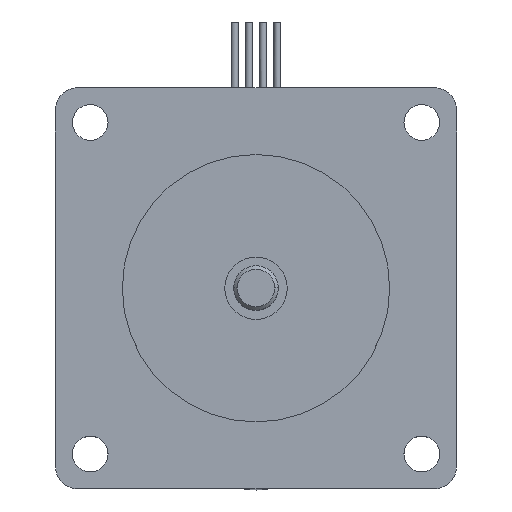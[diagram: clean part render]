
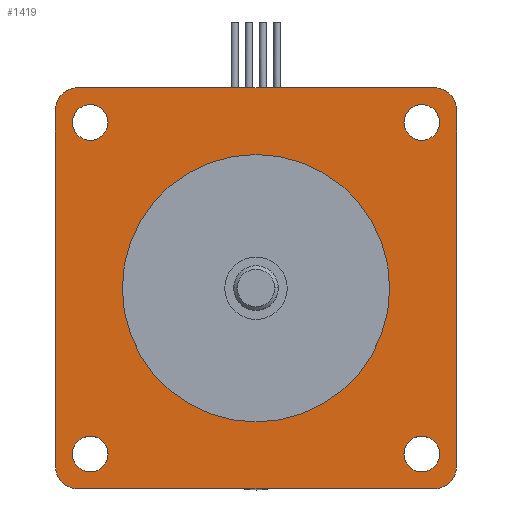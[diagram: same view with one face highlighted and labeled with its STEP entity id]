
A CAD part, top view. The second image highlights one B-rep face of the part: STEP entity #1419.
In plain terms, the highlighted planar face has unit normal (0, 0, 1).
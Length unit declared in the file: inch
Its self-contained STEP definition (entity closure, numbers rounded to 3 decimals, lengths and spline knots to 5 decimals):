
#99=CARTESIAN_POINT('',(-1.03,0.93,4.03));
#100=VERTEX_POINT('',#99);
#116=CARTESIAN_POINT('',(-0.83,0.93,4.03));
#117=VERTEX_POINT('',#116);
#124=CARTESIAN_POINT('',(-0.93,0.93,4.03));
#125=DIRECTION('',(0.0,0.0,-1.0));
#126=DIRECTION('',(-1.0,0.0,0.0));
#127=AXIS2_PLACEMENT_3D('',#124,#125,#126);
#128=CIRCLE('',#127,0.1);
#129=EDGE_CURVE('',#100,#117,#128,.T.);
#141=CARTESIAN_POINT('',(0.93,1.03,4.03));
#142=VERTEX_POINT('',#141);
#158=CARTESIAN_POINT('',(0.93,0.83,4.03));
#159=VERTEX_POINT('',#158);
#166=CARTESIAN_POINT('',(0.93,0.93,4.03));
#167=DIRECTION('',(0.0,0.0,-1.0));
#168=DIRECTION('',(0.0,1.0,0.0));
#169=AXIS2_PLACEMENT_3D('',#166,#167,#168);
#170=CIRCLE('',#169,0.1);
#171=EDGE_CURVE('',#142,#159,#170,.T.);
#183=CARTESIAN_POINT('',(-0.93,-1.03,4.03));
#184=VERTEX_POINT('',#183);
#200=CARTESIAN_POINT('',(-0.93,-0.83,4.03));
#201=VERTEX_POINT('',#200);
#208=CARTESIAN_POINT('',(-0.93,-0.93,4.03));
#209=DIRECTION('',(0.0,0.0,-1.0));
#210=DIRECTION('',(0.0,-1.0,0.0));
#211=AXIS2_PLACEMENT_3D('',#208,#209,#210);
#212=CIRCLE('',#211,0.1);
#213=EDGE_CURVE('',#184,#201,#212,.T.);
#225=CARTESIAN_POINT('',(1.03,-0.93,4.03));
#226=VERTEX_POINT('',#225);
#242=CARTESIAN_POINT('',(0.83,-0.93,4.03));
#243=VERTEX_POINT('',#242);
#250=CARTESIAN_POINT('',(0.93,-0.93,4.03));
#251=DIRECTION('',(0.0,0.0,-1.0));
#252=DIRECTION('',(1.0,0.0,0.0));
#253=AXIS2_PLACEMENT_3D('',#250,#251,#252);
#254=CIRCLE('',#253,0.1);
#255=EDGE_CURVE('',#226,#243,#254,.T.);
#265=CARTESIAN_POINT('',(-0.75,0.,4.03));
#266=VERTEX_POINT('',#265);
#275=CARTESIAN_POINT('',(0.75,0.,4.03));
#276=VERTEX_POINT('',#275);
#277=CARTESIAN_POINT('',(0.0,0.0,4.03));
#278=DIRECTION('',(0.0,0.0,-1.0));
#279=DIRECTION('',(-1.0,0.0,0.0));
#280=AXIS2_PLACEMENT_3D('',#277,#278,#279);
#281=CIRCLE('',#280,0.75);
#282=EDGE_CURVE('',#276,#266,#281,.T.);
#1169=CARTESIAN_POINT('',(-1.125,1.0,4.03));
#1170=VERTEX_POINT('',#1169);
#1177=CARTESIAN_POINT('',(-1.,1.125,4.03));
#1178=VERTEX_POINT('',#1177);
#1179=CARTESIAN_POINT('',(-1.,1.0,4.03));
#1180=DIRECTION('',(0.0,0.0,1.0));
#1181=DIRECTION('',(0.0,1.0,0.0));
#1182=AXIS2_PLACEMENT_3D('',#1179,#1180,#1181);
#1183=CIRCLE('',#1182,0.125);
#1184=EDGE_CURVE('',#1178,#1170,#1183,.T.);
#1203=CARTESIAN_POINT('',(1.0,1.125,4.03));
#1204=VERTEX_POINT('',#1203);
#1205=CARTESIAN_POINT('',(1.0,1.125,4.03));
#1206=DIRECTION('',(-1.0,0.0,0.0));
#1207=VECTOR('',#1206,2.0);
#1208=LINE('',#1205,#1207);
#1209=EDGE_CURVE('',#1204,#1178,#1208,.T.);
#1227=CARTESIAN_POINT('',(-1.125,-1.,4.03));
#1228=VERTEX_POINT('',#1227);
#1235=CARTESIAN_POINT('',(-1.125,1.0,4.03));
#1236=DIRECTION('',(0.0,-1.0,0.0));
#1237=VECTOR('',#1236,2.);
#1238=LINE('',#1235,#1237);
#1239=EDGE_CURVE('',#1170,#1228,#1238,.T.);
#1251=CARTESIAN_POINT('',(-1.,-1.125,4.03));
#1252=VERTEX_POINT('',#1251);
#1259=CARTESIAN_POINT('',(-1.,-1.,4.03));
#1260=DIRECTION('',(0.0,0.0,1.0));
#1261=DIRECTION('',(-1.0,0.0,0.0));
#1262=AXIS2_PLACEMENT_3D('',#1259,#1260,#1261);
#1263=CIRCLE('',#1262,0.125);
#1264=EDGE_CURVE('',#1228,#1252,#1263,.T.);
#1308=CARTESIAN_POINT('',(0.0,0.0,4.03));
#1309=DIRECTION('',(0.0,0.0,-1.0));
#1310=DIRECTION('',(-1.0,0.0,0.0));
#1311=AXIS2_PLACEMENT_3D('',#1308,#1309,#1310);
#1312=CIRCLE('',#1311,0.75);
#1313=EDGE_CURVE('',#266,#276,#1312,.T.);
#1332=CARTESIAN_POINT('',(0.0,0.0,4.03));
#1333=DIRECTION('',(0.0,0.0,1.0));
#1334=DIRECTION('',(1.0,0.0,0.0));
#1335=AXIS2_PLACEMENT_3D('',#1332,#1333,#1334);
#1336=PLANE('',#1335);
#1337=ORIENTED_EDGE('',*,*,#1184,.T.);
#1338=ORIENTED_EDGE('',*,*,#1239,.T.);
#1339=ORIENTED_EDGE('',*,*,#1264,.T.);
#1340=CARTESIAN_POINT('',(1.0,-1.125,4.03));
#1341=VERTEX_POINT('',#1340);
#1342=CARTESIAN_POINT('',(-1.,-1.125,4.03));
#1343=DIRECTION('',(1.0,0.0,0.0));
#1344=VECTOR('',#1343,2.);
#1345=LINE('',#1342,#1344);
#1346=EDGE_CURVE('',#1252,#1341,#1345,.T.);
#1347=ORIENTED_EDGE('',*,*,#1346,.T.);
#1348=CARTESIAN_POINT('',(1.125,-1.,4.03));
#1349=VERTEX_POINT('',#1348);
#1350=CARTESIAN_POINT('',(1.0,-1.,4.03));
#1351=DIRECTION('',(0.0,0.0,1.0));
#1352=DIRECTION('',(0.0,-1.0,0.0));
#1353=AXIS2_PLACEMENT_3D('',#1350,#1351,#1352);
#1354=CIRCLE('',#1353,0.125);
#1355=EDGE_CURVE('',#1341,#1349,#1354,.T.);
#1356=ORIENTED_EDGE('',*,*,#1355,.T.);
#1357=CARTESIAN_POINT('',(1.125,1.0,4.03));
#1358=VERTEX_POINT('',#1357);
#1359=CARTESIAN_POINT('',(1.125,-1.,4.03));
#1360=DIRECTION('',(0.0,1.0,0.0));
#1361=VECTOR('',#1360,2.);
#1362=LINE('',#1359,#1361);
#1363=EDGE_CURVE('',#1349,#1358,#1362,.T.);
#1364=ORIENTED_EDGE('',*,*,#1363,.T.);
#1365=CARTESIAN_POINT('',(1.0,1.0,4.03));
#1366=DIRECTION('',(0.0,0.0,1.0));
#1367=DIRECTION('',(1.0,0.0,0.0));
#1368=AXIS2_PLACEMENT_3D('',#1365,#1366,#1367);
#1369=CIRCLE('',#1368,0.125);
#1370=EDGE_CURVE('',#1358,#1204,#1369,.T.);
#1371=ORIENTED_EDGE('',*,*,#1370,.T.);
#1372=ORIENTED_EDGE('',*,*,#1209,.T.);
#1373=EDGE_LOOP('',(#1337,#1338,#1339,#1347,#1356,#1364,#1371,#1372));
#1374=FACE_OUTER_BOUND('',#1373,.T.);
#1375=CARTESIAN_POINT('',(-0.93,0.93,4.03));
#1376=DIRECTION('',(0.0,0.0,-1.0));
#1377=DIRECTION('',(-1.0,0.0,0.0));
#1378=AXIS2_PLACEMENT_3D('',#1375,#1376,#1377);
#1379=CIRCLE('',#1378,0.1);
#1380=EDGE_CURVE('',#117,#100,#1379,.T.);
#1381=ORIENTED_EDGE('',*,*,#1380,.T.);
#1382=ORIENTED_EDGE('',*,*,#129,.T.);
#1383=EDGE_LOOP('',(#1381,#1382));
#1384=FACE_BOUND('',#1383,.T.);
#1385=CARTESIAN_POINT('',(0.93,0.93,4.03));
#1386=DIRECTION('',(0.0,0.0,-1.0));
#1387=DIRECTION('',(0.0,1.0,0.0));
#1388=AXIS2_PLACEMENT_3D('',#1385,#1386,#1387);
#1389=CIRCLE('',#1388,0.1);
#1390=EDGE_CURVE('',#159,#142,#1389,.T.);
#1391=ORIENTED_EDGE('',*,*,#1390,.T.);
#1392=ORIENTED_EDGE('',*,*,#171,.T.);
#1393=EDGE_LOOP('',(#1391,#1392));
#1394=FACE_BOUND('',#1393,.T.);
#1395=CARTESIAN_POINT('',(-0.93,-0.93,4.03));
#1396=DIRECTION('',(0.0,0.0,-1.0));
#1397=DIRECTION('',(0.0,-1.0,0.0));
#1398=AXIS2_PLACEMENT_3D('',#1395,#1396,#1397);
#1399=CIRCLE('',#1398,0.1);
#1400=EDGE_CURVE('',#201,#184,#1399,.T.);
#1401=ORIENTED_EDGE('',*,*,#1400,.T.);
#1402=ORIENTED_EDGE('',*,*,#213,.T.);
#1403=EDGE_LOOP('',(#1401,#1402));
#1404=FACE_BOUND('',#1403,.T.);
#1405=CARTESIAN_POINT('',(0.93,-0.93,4.03));
#1406=DIRECTION('',(0.0,0.0,-1.0));
#1407=DIRECTION('',(1.0,0.0,0.0));
#1408=AXIS2_PLACEMENT_3D('',#1405,#1406,#1407);
#1409=CIRCLE('',#1408,0.1);
#1410=EDGE_CURVE('',#243,#226,#1409,.T.);
#1411=ORIENTED_EDGE('',*,*,#1410,.T.);
#1412=ORIENTED_EDGE('',*,*,#255,.T.);
#1413=EDGE_LOOP('',(#1411,#1412));
#1414=FACE_BOUND('',#1413,.T.);
#1415=ORIENTED_EDGE('',*,*,#282,.T.);
#1416=ORIENTED_EDGE('',*,*,#1313,.T.);
#1417=EDGE_LOOP('',(#1415,#1416));
#1418=FACE_BOUND('',#1417,.T.);
#1419=ADVANCED_FACE('',(#1374,#1384,#1394,#1404,#1414,#1418),#1336,.T.);
